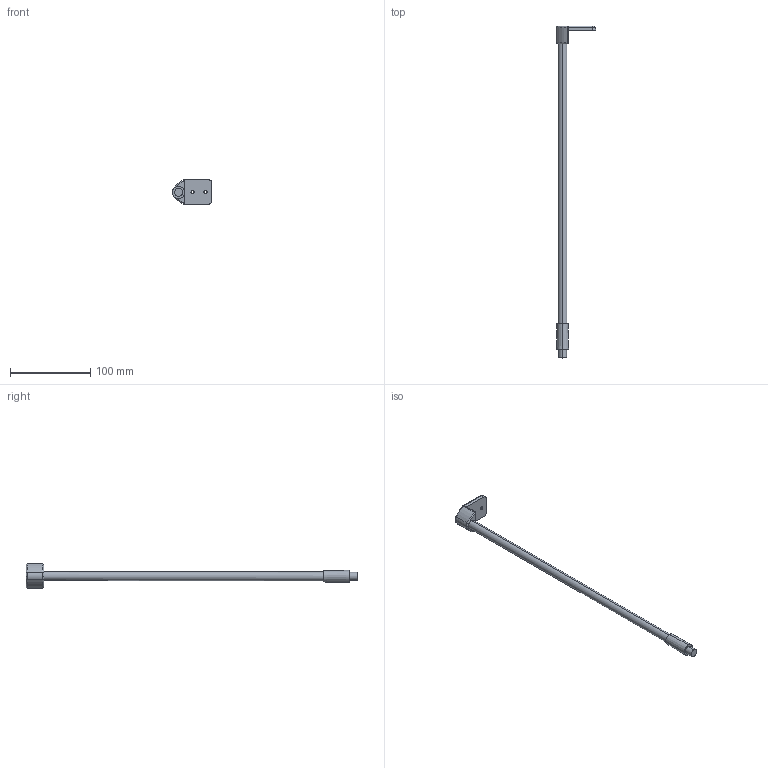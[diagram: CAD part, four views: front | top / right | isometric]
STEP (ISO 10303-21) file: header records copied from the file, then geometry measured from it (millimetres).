
FILE_DESCRIPTION (( 'STEP AP214' ), '1' );
FILE_NAME ('_2S_RUL_7107_NL400_LI.step', '2010-06-29T14:08:27', ( 'grass' ), ( '' ), 'SwSTEP 2.0', 'SolidWorks 2009', '' );
FILE_SCHEMA (( 'AUTOMOTIVE_DESIGN' ));
Length unit declared in the file: millimetre
Products named in the file (1): _2S_RUL_7107_NL400_LI
Bounding box: 49.5 x 413 x 30 mm (x, y, z)
Volume: 49491.6 mm3; surface area: 18884.1 mm2
Topology: 1 solids, 1 shells, 89 faces, 203 edges, 118 vertices
Faces by surface type: cylinder 32, plane 17, torus 16, bspline 16, cone 6, sphere 2
Entity records: 4566 total; most frequent: CARTESIAN_POINT 2608, DIRECTION 411, ORIENTED_EDGE 402, EDGE_CURVE 201, AXIS2_PLACEMENT_3D 172, VERTEX_POINT 118, CIRCLE 98, EDGE_LOOP 97
